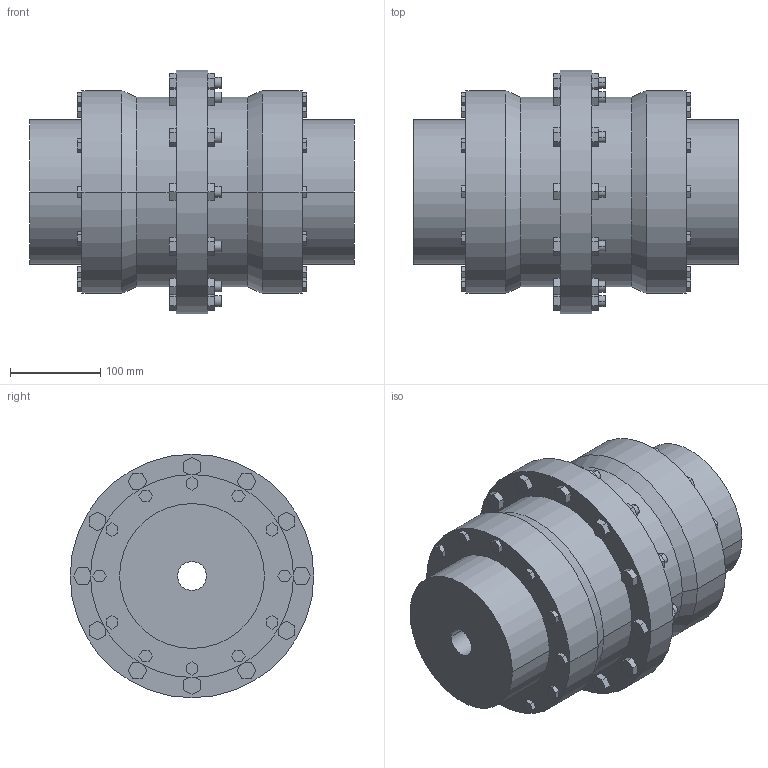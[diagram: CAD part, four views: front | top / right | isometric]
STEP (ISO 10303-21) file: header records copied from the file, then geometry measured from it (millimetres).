
FILE_DESCRIPTION((''),'2;1');
FILE_NAME('A19715400-0_ASM','2019-05-23T',('AB_Roschiwal'),('RENK AG'),'PRO/ENGINEER BY PARAMETRIC TECHNOLOGY CORPORATION, 2015440','PRO/ENGINEER BY PARAMETRIC TECHNOLOGY CORPORATION, 2015440','');
FILE_SCHEMA(('CONFIG_CONTROL_DESIGN'));
Length unit declared in the file: millimetre
Products named in the file (3): SBK100_GEHAEUSE; SBK100_NABE; A19715400-0_ASM
Assembly tree (3 placements, depth 2):
  A19715400-0_ASM
    SBK100_GEHAEUSE
    SBK100_NABE  x2
Bounding box: 360 x 270 x 270 mm (x, y, z)
Volume: 8447162.1 mm3; surface area: 701381 mm2
Topology: 3 solids, 3 shells, 422 faces, 1036 edges, 688 vertices
Faces by surface type: plane 362, cylinder 56, cone 4
Entity records: 12052 total; most frequent: CARTESIAN_POINT 2100, ORIENTED_EDGE 2024, DIRECTION 1940, EDGE_CURVE 1012, VECTOR 916, LINE 916, VERTEX_POINT 672, AXIS2_PLACEMENT_3D 512
